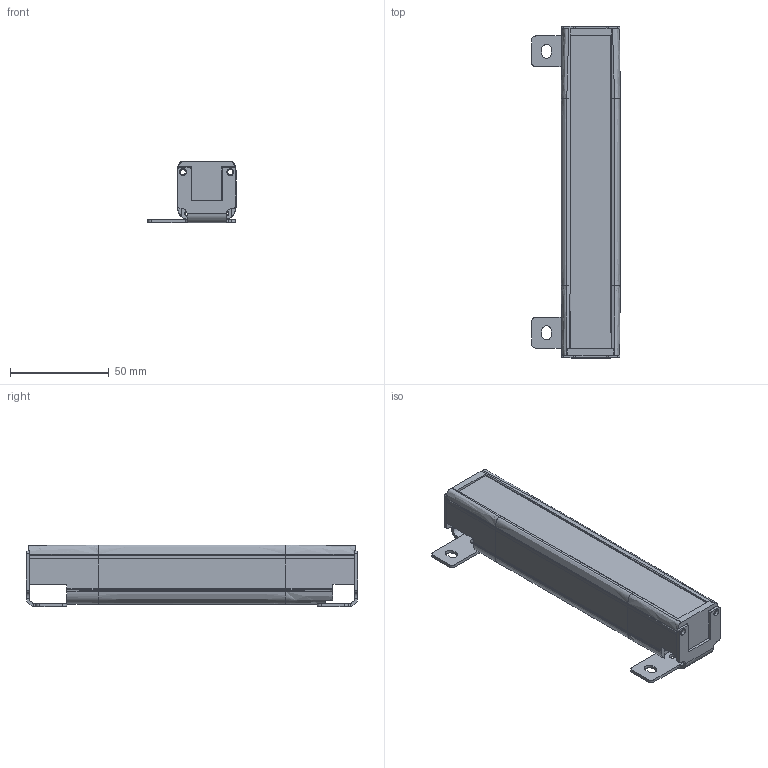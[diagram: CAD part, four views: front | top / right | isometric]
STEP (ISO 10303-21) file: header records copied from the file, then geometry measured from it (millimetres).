
FILE_DESCRIPTION(/* description */ (''),/* implementation_level */ '2;1');
FILE_NAME(/* name */ '1610(30X30).stp',/* time_stamp */ '2018-08-11T15:56:38+08:00',/* author */ (''),/* organization */ (''),/* preprocessor_version */ 'ST-DEVELOPER v16',/* originating_system */ 'SIEMENS PLM Software NX 10.0',/* authorisation */ '');
FILE_SCHEMA (('AP203_CONFIGURATION_CONTROLLED_3D_DESIGN_OF_MECHANICAL_PARTS_AND_ASSEMBLIES_MIM_LF { 1 0 10303 403 2 1 2}'));
Length unit declared in the file: millimetre
Products named in the file (1): Admi0C4084F0v4hb
Bounding box: 44.89 x 168.4 x 31.39 mm (x, y, z)
Volume: 51781.8 mm3; surface area: 58696.6 mm2
Topology: 6 solids, 6 shells, 441 faces, 1312 edges, 871 vertices
Faces by surface type: plane 256, cylinder 132, cone 32, bspline 14, extrusion 7
Full cylindrical faces by diameter (mm): 1.5 x2, 3.2 x8, 3.5 x8
Entity records: 15728 total; most frequent: CARTESIAN_POINT 3921, ORIENTED_EDGE 2528, DIRECTION 2314, EDGE_CURVE 1264, VECTOR 856, VERTEX_POINT 855, LINE 849, AXIS2_PLACEMENT_3D 729
